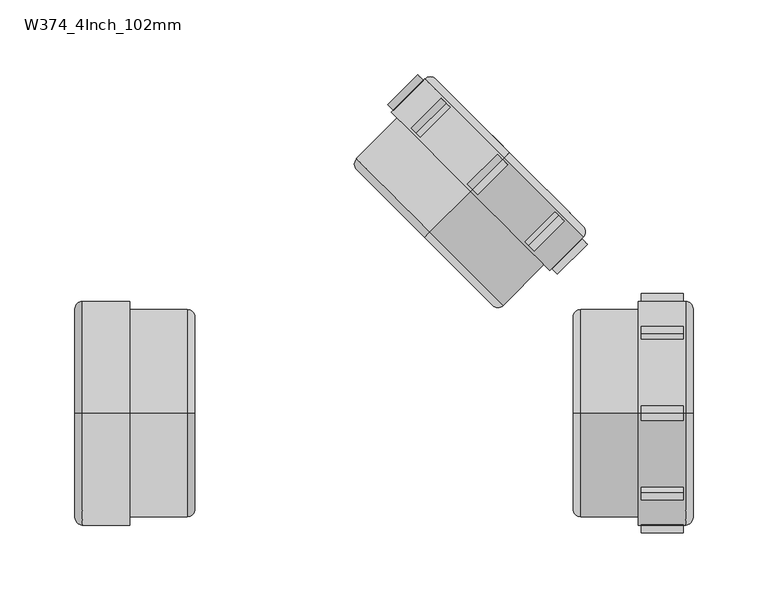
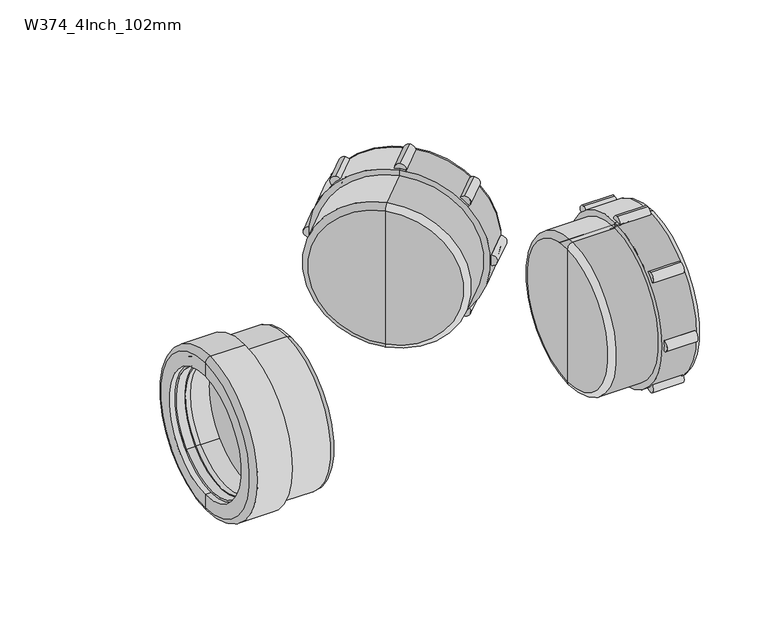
"""IFC4 building model written with IfcOpenShell, lengths in millimetres: pipe fitting geometry, Durapipe_PipeFitting_VulcatheneMechanical_SingleWye_W37 : W374_4Inch_102mm."""

from ifc_helpers import new_model, si_unit, point, frame, frame_2d, origin, place, context, project, spatial, polyline, circle_curve, ellipse_curve, trimmed, segment, composite_curve, outline, extrude, source, transform, mapped, element, save
from ifc_brep_helpers import plane_surface, cylinder_surface, revolved_surface, advanced_brep


def w374_4inch_102mm_46581d94(model_context):
    return source(origin(), model_context, "Body", "SolidModel", [
        advanced_brep(
        [(202.0884702, 137.8884702, -45.3962554), (197.8384702, 142.1384702, -39.3858477), (142.1384702, 197.8384702, 39.3858477), (137.8884702, 202.0884702, 45.3962554), (124.8735424, 184.2735424, 42.0021428), (184.2735424, 124.8735424, -42.0021428), (158.1813021, 98.7813021, -42.0021428), (98.7813021, 158.1813021, 42.0021428), (99.9313021, 157.0313021, 40.3757972), (157.0313021, 99.9313021, -40.3757972), (132.4582141, 189.5582141, 40.3757972), (189.5582141, 132.4582141, -40.3757972), (133.5082141, 188.5082141, 38.890873), (188.5082141, 133.5082141, -38.890873), (192.0401946, 136.3401946, -39.3858477), (191.6901946, 136.6901946, -38.890873), (136.6901946, 191.6901946, 38.890873), (136.3401946, 192.0401946, 39.3858477)],
        [
            (0, 1),
            (1, 2, circle_curve(frame((169.9884702, 169.9884702, 0.0), z_axis=(-0.7071067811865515, -0.7071067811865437, 0.0), x_axis=(-0.49999999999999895, 0.5000000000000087, 0.707106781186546)), 55.7)),
            (2, 3),
            (3, 0, circle_curve(frame((169.9884702, 169.9884702, 0.0), z_axis=(0.7071067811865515, 0.7071067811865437, 0.0), x_axis=(-0.49999999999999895, 0.5000000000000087, 0.707106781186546)), 64.2)),
            (2, 1, circle_curve(frame((169.9884702, 169.9884702, 0.0), z_axis=(-0.7071067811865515, -0.7071067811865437, 0.0), x_axis=(-0.49999999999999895, 0.5000000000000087, 0.707106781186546)), 55.7)),
            (0, 3, circle_curve(frame((169.9884702, 169.9884702, 0.0), z_axis=(0.7071067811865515, 0.7071067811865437, 0.0), x_axis=(-0.49999999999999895, 0.5000000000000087, 0.707106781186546)), 64.2)),
            (3, 4),
            (4, 5, circle_curve(frame((154.5735424, 154.5735424, 0.0), z_axis=(0.7071067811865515, 0.7071067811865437, 0.0), x_axis=(-0.49999999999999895, 0.5000000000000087, 0.707106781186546)), 59.4)),
            (5, 0),
            (5, 4, circle_curve(frame((154.5735424, 154.5735424, 0.0), z_axis=(0.7071067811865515, 0.7071067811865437, 0.0), x_axis=(-0.49999999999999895, 0.5000000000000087, 0.707106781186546)), 59.4)),
            (6, 5),
            (4, 7),
            (7, 6, circle_curve(frame((128.4813021, 128.4813021, 0.0), z_axis=(0.7071067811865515, 0.7071067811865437, 0.0), x_axis=(-0.49999999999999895, 0.5000000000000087, 0.707106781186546)), 59.4)),
            (6, 7, circle_curve(frame((128.4813021, 128.4813021, 0.0), z_axis=(0.7071067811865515, 0.7071067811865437, 0.0), x_axis=(-0.49999999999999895, 0.5000000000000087, 0.707106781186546)), 59.4)),
            (7, 8),
            (8, 9, circle_curve(frame((128.4813021, 128.4813021, 0.0), z_axis=(0.7071067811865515, 0.7071067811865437, 0.0), x_axis=(-0.49999999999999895, 0.5000000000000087, 0.707106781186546)), 57.1)),
            (9, 6),
            (9, 8, circle_curve(frame((128.4813021, 128.4813021, 0.0), z_axis=(0.7071067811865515, 0.7071067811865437, 0.0), x_axis=(-0.49999999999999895, 0.5000000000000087, 0.707106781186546)), 57.1)),
            (8, 10),
            (10, 11, circle_curve(frame((161.0082141, 161.0082141, 0.0), z_axis=(0.7071067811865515, 0.7071067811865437, 0.0), x_axis=(-0.49999999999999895, 0.5000000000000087, 0.707106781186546)), 57.1)),
            (11, 9),
            (11, 10, circle_curve(frame((161.0082141, 161.0082141, 0.0), z_axis=(0.7071067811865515, 0.7071067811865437, 0.0), x_axis=(-0.49999999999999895, 0.5000000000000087, 0.707106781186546)), 57.1)),
            (10, 12),
            (12, 13, circle_curve(frame((161.0082141, 161.0082141, 0.0), z_axis=(0.7071067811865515, 0.7071067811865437, 0.0), x_axis=(-0.49999999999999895, 0.5000000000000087, 0.707106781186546)), 55.0)),
            (13, 11),
            (13, 12, circle_curve(frame((161.0082141, 161.0082141, 0.0), z_axis=(0.7071067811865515, 0.7071067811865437, 0.0), x_axis=(-0.49999999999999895, 0.5000000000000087, 0.707106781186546)), 55.0)),
            (14, 15),
            (15, 16, circle_curve(frame((164.1901946, 164.1901946, 0.0), z_axis=(-0.7071067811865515, -0.7071067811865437, 0.0), x_axis=(-0.49999999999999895, 0.5000000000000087, 0.707106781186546)), 55.0)),
            (16, 17),
            (17, 14, circle_curve(frame((164.1901946, 164.1901946, 0.0), z_axis=(0.7071067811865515, 0.7071067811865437, 0.0), x_axis=(-0.49999999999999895, 0.5000000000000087, 0.707106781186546)), 55.7)),
            (16, 15, circle_curve(frame((164.1901946, 164.1901946, 0.0), z_axis=(-0.7071067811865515, -0.7071067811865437, 0.0), x_axis=(-0.49999999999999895, 0.5000000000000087, 0.707106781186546)), 55.0)),
            (14, 17, circle_curve(frame((164.1901946, 164.1901946, 0.0), z_axis=(0.7071067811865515, 0.7071067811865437, 0.0), x_axis=(-0.49999999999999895, 0.5000000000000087, 0.707106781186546)), 55.7)),
            (1, 14),
            (17, 2),
            (12, 16),
            (15, 13),
        ],
        [
            plane_surface(frame((169.9884702, 169.9884702, 0.0), z_axis=(0.7071067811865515, 0.7071067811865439, 0.0), x_axis=(-0.4999999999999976, 0.5000000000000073, 0.7071067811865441))),
            revolved_surface(polyline([(137.8884702, 202.0884702, 45.3962554), (124.8735424, 184.2735424, 42.0021428)]), (173.5240041, 173.5240041, 0.0), (-0.7071067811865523, -0.7071067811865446, 0.0)),
            cylinder_surface(frame((127.0171274, 127.0171274, 0.0), z_axis=(-0.7071067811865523, -0.7071067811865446, 0.0), x_axis=(-0.49999999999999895, 0.5000000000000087, 0.707106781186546)), 59.4),
            plane_surface(frame((128.4813021, 128.4813021, 0.0), z_axis=(-0.7071067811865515, -0.7071067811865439, 0.0), x_axis=(-0.4999999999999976, 0.5000000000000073, 0.7071067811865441))),
            revolved_surface(polyline([(99.93130209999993, 157.03130210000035, 40.37579720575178), (132.4582141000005, 189.55821410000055, 40.37579720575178)]), (126.0113846, 126.0113846, 0.0), (-0.7071067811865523, -0.7071067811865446, 0.0)),
            plane_surface(frame((161.0082141, 161.0082141, 0.0), z_axis=(-0.7071067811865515, -0.7071067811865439, 0.0), x_axis=(-0.4999999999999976, 0.5000000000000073, 0.7071067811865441))),
            plane_surface(frame((164.1901946, 164.1901946, 0.0), z_axis=(0.7071067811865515, 0.7071067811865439, 0.0), x_axis=(-0.4999999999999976, 0.5000000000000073, 0.7071067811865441))),
            revolved_surface(polyline([(136.34019459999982, 192.04019460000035, 39.385847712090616), (142.13847020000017, 197.83847020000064, 39.385847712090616)]), (173.5240041, 173.5240041, 0.0), (-0.7071067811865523, -0.7071067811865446, 0.0)),
            revolved_surface(polyline([(133.50821409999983, 188.50821410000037, 38.89087296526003), (136.69019460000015, 191.69019460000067, 38.89087296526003)]), (171.0959355, 171.0959355, 0.0), (-0.7071067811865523, -0.7071067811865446, 0.0)),
        ],
        [
            (0, [[1, 2, 3, 4]]),
            (0, [[5, -1, 6, -3]]),
            (1, [[7, 8, 9, -4]]),
            (1, [[-9, 10, -7, -6]]),
            (2, [[11, -8, 12, 13]]),
            (2, [[-10, -11, 14, -12]]),
            (3, [[15, 16, 17, -13]]),
            (3, [[-17, 18, -15, -14]]),
            (4, [[-16, 19, 20, 21]]),
            (4, [[22, -19, -18, -21]]),
            (5, [[23, 24, 25, -20]]),
            (5, [[-25, 26, -23, -22]]),
            (6, [[27, 28, 29, 30]]),
            (6, [[-29, 31, -27, 32]]),
            (7, [[33, -30, 34, -2]]),
            (7, [[-34, -32, -33, -5]]),
            (8, [[-24, 35, -28, 36]]),
            (8, [[-31, -35, -26, -36]]),
        ],
    ),
        advanced_brep(
        [(148.06816, 148.06816, -75.0), (170.3420236, 170.3420236, -75.0), (170.3420236, 170.3420236, 75.0), (148.06816, 148.06816, 75.0), (148.06816, 148.06816, -69.5), (148.06816, 148.06816, 69.5), (173.8775575, 173.8775575, -70.0), (173.8775575, 173.8775575, -57.5), (173.8775575, 173.8775575, 57.5), (173.8775575, 173.8775575, 70.0), (169.9884702, 169.9884702, -66.0), (148.06816, 148.06816, -66.0), (148.06816, 148.06816, 66.0), (169.9884702, 169.9884702, 66.0), (169.9884702, 169.9884702, -57.5), (169.9884702, 169.9884702, 57.5), (120.8445489, 120.8445489, -69.5), (120.8445489, 120.8445489, 69.5), (117.309015, 117.309015, -64.5), (117.309015, 117.309015, 64.5), (117.309015, 117.309015, 0.0), (148.06816, 148.06816, 0.0)],
        [
            (0, 1),
            (1, 2, circle_curve(frame((170.3420236, 170.3420236, 0.0), z_axis=(-0.7071067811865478, -0.7071067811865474, 0.0), x_axis=(0.0, 0.0, 1.0000000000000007)), 75.0)),
            (2, 3),
            (3, 0, circle_curve(frame((148.06816, 148.06816, 0.0), z_axis=(0.7071067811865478, 0.7071067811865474, 0.0), x_axis=(0.0, 0.0, 1.0000000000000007)), 75.0)),
            (2, 1, circle_curve(frame((170.3420236, 170.3420236, 0.0), z_axis=(-0.7071067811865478, -0.7071067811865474, 0.0), x_axis=(0.0, 0.0, 1.0000000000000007)), 75.0)),
            (0, 3, circle_curve(frame((148.06816, 148.06816, 0.0), z_axis=(0.7071067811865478, 0.7071067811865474, 0.0), x_axis=(0.0, 0.0, 1.0000000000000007)), 75.0)),
            (4, 0),
            (3, 5),
            (5, 4, circle_curve(frame((148.06816, 148.06816, 0.0), z_axis=(0.7071067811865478, 0.7071067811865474, 0.0), x_axis=(0.0, 0.0, 1.0000000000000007)), 69.5)),
            (4, 5, circle_curve(frame((148.06816, 148.06816, 0.0), z_axis=(0.7071067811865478, 0.7071067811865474, 0.0), x_axis=(0.0, 0.0, 1.0000000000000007)), 69.5)),
            (6, 7),
            (7, 8, circle_curve(frame((173.8775575, 173.8775575, 0.0), z_axis=(-0.7071067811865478, -0.7071067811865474, 0.0), x_axis=(0.0, 0.0, 1.0000000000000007)), 57.5)),
            (8, 9),
            (9, 6, circle_curve(frame((173.8775575, 173.8775575, 0.0), z_axis=(0.7071067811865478, 0.7071067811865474, 0.0), x_axis=(0.0, 0.0, 1.0000000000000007)), 70.0)),
            (8, 7, circle_curve(frame((173.8775575, 173.8775575, 0.0), z_axis=(-0.7071067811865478, -0.7071067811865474, 0.0), x_axis=(0.0, 0.0, 1.0000000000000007)), 57.5)),
            (6, 9, circle_curve(frame((173.8775575, 173.8775575, 0.0), z_axis=(0.7071067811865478, 0.7071067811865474, 0.0), x_axis=(0.0, 0.0, 1.0000000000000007)), 70.0)),
            (1, 6, circle_curve(frame((170.3420236, 170.3420236, -70.0), z_axis=(0.7071067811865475, -0.7071067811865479, 0.0), x_axis=(0.7071067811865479, 0.7071067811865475, 0.0)), 5.0)),
            (9, 2, circle_curve(frame((170.3420236, 170.3420236, 70.0), z_axis=(0.7071067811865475, -0.7071067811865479, 0.0), x_axis=(0.7071067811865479, 0.7071067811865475, 0.0)), 5.0)),
            (10, 11),
            (11, 12, circle_curve(frame((148.06816, 148.06816, 0.0), z_axis=(-0.7071067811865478, -0.7071067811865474, 0.0), x_axis=(0.0, 0.0, 1.0000000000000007)), 66.0)),
            (12, 13),
            (13, 10, circle_curve(frame((169.9884702, 169.9884702, 0.0), z_axis=(0.7071067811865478, 0.7071067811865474, 0.0), x_axis=(0.0, 0.0, 1.0000000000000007)), 66.0)),
            (12, 11, circle_curve(frame((148.06816, 148.06816, 0.0), z_axis=(-0.7071067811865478, -0.7071067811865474, 0.0), x_axis=(0.0, 0.0, 1.0000000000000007)), 66.0)),
            (10, 13, circle_curve(frame((169.9884702, 169.9884702, 0.0), z_axis=(0.7071067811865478, 0.7071067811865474, 0.0), x_axis=(0.0, 0.0, 1.0000000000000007)), 66.0)),
            (14, 10),
            (13, 15),
            (15, 14, circle_curve(frame((169.9884702, 169.9884702, 0.0), z_axis=(0.7071067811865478, 0.7071067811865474, 0.0), x_axis=(0.0, 0.0, 1.0000000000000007)), 57.5)),
            (14, 15, circle_curve(frame((169.9884702, 169.9884702, 0.0), z_axis=(0.7071067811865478, 0.7071067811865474, 0.0), x_axis=(0.0, 0.0, 1.0000000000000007)), 57.5)),
            (7, 14),
            (15, 8),
            (16, 4),
            (5, 17),
            (17, 16, circle_curve(frame((120.8445489, 120.8445489, 0.0), z_axis=(0.7071067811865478, 0.7071067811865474, 0.0), x_axis=(0.0, 0.0, 1.0000000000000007)), 69.5)),
            (16, 17, circle_curve(frame((120.8445489, 120.8445489, 0.0), z_axis=(0.7071067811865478, 0.7071067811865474, 0.0), x_axis=(0.0, 0.0, 1.0000000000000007)), 69.5)),
            (18, 16, circle_curve(frame((120.8445489, 120.8445489, -64.5), z_axis=(0.7071067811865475, -0.7071067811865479, 0.0), x_axis=(0.7071067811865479, 0.7071067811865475, 0.0)), 5.0)),
            (17, 19, circle_curve(frame((120.8445489, 120.8445489, 64.5), z_axis=(0.7071067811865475, -0.7071067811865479, 0.0), x_axis=(0.7071067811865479, 0.7071067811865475, 0.0)), 5.0)),
            (19, 18, circle_curve(frame((117.309015, 117.309015, 0.0), z_axis=(0.7071067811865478, 0.7071067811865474, 0.0), x_axis=(0.0, 0.0, 1.0000000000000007)), 64.5)),
            (18, 19, circle_curve(frame((117.309015, 117.309015, 0.0), z_axis=(0.7071067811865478, 0.7071067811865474, 0.0), x_axis=(0.0, 0.0, 1.0000000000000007)), 64.5)),
            (20, 18),
            (19, 20),
            (11, 21),
            (21, 12),
        ],
        [
            cylinder_surface(frame((1277.5311074, 1277.5311074, 0.0), z_axis=(-0.7071067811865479, -0.7071067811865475, 0.0), x_axis=(0.0, 0.0, 1.0000000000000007)), 75.0),
            plane_surface(frame((148.06816, 148.06816, 0.0), z_axis=(-0.7071067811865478, -0.7071067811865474, 0.0), x_axis=(0.0, 0.0, 1.0))),
            plane_surface(frame((173.8775575, 173.8775575, 0.0), z_axis=(0.7071067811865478, 0.7071067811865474, 0.0), x_axis=(0.0, 0.0, 1.0))),
            revolved_surface(trimmed(ellipse_curve(frame((170.3420236, 170.3420236, 70.0), z_axis=(0.7071067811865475, -0.7071067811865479, 0.0), x_axis=(0.7071067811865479, 0.7071067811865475, 0.0)), 5.0, 5.0), [point((173.8775575, 173.8775575, 70.0))], [point((170.3420236, 170.3420236, 75.0))], True, "CARTESIAN"), (1277.5311074, 1277.5311074, 0.0), (-0.7071067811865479, -0.7071067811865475, 0.0)),
            revolved_surface(polyline([(148.06815999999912, 148.0681599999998, 66.00000000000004), (169.98847019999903, 169.9884701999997, 66.00000000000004)]), (1277.5311074, 1277.5311074, 0.0), (-0.7071067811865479, -0.7071067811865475, 0.0)),
            plane_surface(frame((169.9884702, 169.9884702, 0.0), z_axis=(-0.7071067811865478, -0.7071067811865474, 0.0), x_axis=(0.0, 0.0, 1.0))),
            revolved_surface(polyline([(169.98847019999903, 169.9884701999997, 57.500000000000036), (173.87755749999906, 173.87755749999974, 57.500000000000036)]), (1277.5311074, 1277.5311074, 0.0), (-0.7071067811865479, -0.7071067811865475, 0.0)),
            cylinder_surface(frame((1277.5311074, 1277.5311074, 0.0), z_axis=(-0.7071067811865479, -0.7071067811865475, 0.0), x_axis=(0.0, 0.0, 1.0000000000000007)), 69.5),
            revolved_surface(trimmed(ellipse_curve(frame((120.8445489, 120.8445489, 64.5), z_axis=(0.7071067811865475, -0.7071067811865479, 0.0), x_axis=(0.7071067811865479, 0.7071067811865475, 0.0)), 5.0, 5.0), [point((120.8445489, 120.8445489, 69.5))], [point((117.309015, 117.309015, 64.5))], True, "CARTESIAN"), (1277.5311074, 1277.5311074, 0.0), (-0.7071067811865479, -0.7071067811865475, 0.0)),
            plane_surface(frame((117.309015, 117.309015, 0.0), z_axis=(-0.7071067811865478, -0.7071067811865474, 0.0), x_axis=(0.0, 0.0, 1.0))),
            plane_surface(frame((148.06816, 148.06816, 0.0), z_axis=(0.7071067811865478, 0.7071067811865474, 0.0), x_axis=(0.0, 0.0, 1.0))),
        ],
        [
            (0, [[1, 2, 3, 4]]),
            (0, [[-3, 5, -1, 6]]),
            (1, [[7, -4, 8, 9]]),
            (1, [[-8, -6, -7, 10]]),
            (2, [[11, 12, 13, 14]]),
            (2, [[-13, 15, -11, 16]]),
            (3, [[17, -14, 18, -2]]),
            (3, [[-18, -16, -17, -5]]),
            (4, [[19, 20, 21, 22]]),
            (4, [[-21, 23, -19, 24]]),
            (5, [[25, -22, 26, 27]]),
            (5, [[-26, -24, -25, 28]]),
            (6, [[29, -27, 30, -12]]),
            (6, [[-30, -28, -29, -15]]),
            (7, [[31, -9, 32, 33]]),
            (7, [[-32, -10, -31, 34]]),
            (8, [[35, -33, 36, 37]]),
            (8, [[-36, -34, -35, 38]]),
            (9, [[39, -37, 40]]),
            (9, [[-40, -38, -39]]),
            (10, [[41, 42, -20]]),
            (10, [[-42, -41, -23]]),
        ],
    ),
        extrude(outline(composite_curve([segment(trimmed(circle_curve(frame_2d((0.0, 5.0)), 5.0), [point((0.0, 10.0))], [point((0.0, 0.0))], False, "CARTESIAN"), True, "CONTINUOUS"), segment(trimmed(circle_curve(frame_2d((0.0, 5.0)), 5.0), [point((0.0, 0.0))], [point((0.0, 10.0))], False, "CARTESIAN"), True, "CONTINUOUS")], self_intersect=False)), frame((96.3079436, 202.3739608, 5.0), z_axis=(0.7071067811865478, 0.7071067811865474, 0.0), x_axis=(0.7071067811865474, -0.7071067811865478, 0.0)), (0.0, 0.0, 1.0), 28.2),
        extrude(outline(composite_curve([segment(trimmed(circle_curve(frame_2d((21.9669914, -48.0330086)), 5.0), [point((21.9669914, -43.0330086))], [point((21.9669914, -53.0330086))], False, "CARTESIAN"), True, "CONTINUOUS"), segment(trimmed(circle_curve(frame_2d((21.9669914, -48.0330086)), 5.0), [point((21.9669914, -53.0330086))], [point((21.9669914, -43.0330086))], False, "CARTESIAN"), True, "CONTINUOUS")], self_intersect=False)), frame((96.3079436, 202.3739608, 5.0), z_axis=(0.7071067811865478, 0.7071067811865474, 0.0), x_axis=(0.7071067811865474, -0.7071067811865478, 0.0)), (0.0, 0.0, 1.0), 28.2),
        extrude(outline(composite_curve([segment(trimmed(circle_curve(frame_2d((75.0, -70.0)), 5.0), [point((75.0, -65.0))], [point((75.0, -75.0))], False, "CARTESIAN"), True, "CONTINUOUS"), segment(trimmed(circle_curve(frame_2d((75.0, -70.0)), 5.0), [point((75.0, -75.0))], [point((75.0, -65.0))], False, "CARTESIAN"), True, "CONTINUOUS")], self_intersect=False)), frame((96.3079436, 202.3739608, 5.0), z_axis=(0.7071067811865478, 0.7071067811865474, 0.0), x_axis=(0.7071067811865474, -0.7071067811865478, 0.0)), (0.0, 0.0, 1.0), 28.2),
        extrude(outline(composite_curve([segment(trimmed(circle_curve(frame_2d((128.0330086, -48.0330086)), 5.0), [point((128.0330086, -43.0330086))], [point((128.0330086, -53.0330086))], False, "CARTESIAN"), True, "CONTINUOUS"), segment(trimmed(circle_curve(frame_2d((128.0330086, -48.0330086)), 5.0), [point((128.0330086, -53.0330086))], [point((128.0330086, -43.0330086))], False, "CARTESIAN"), True, "CONTINUOUS")], self_intersect=False)), frame((96.3079436, 202.3739608, 5.0), z_axis=(0.7071067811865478, 0.7071067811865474, 0.0), x_axis=(0.7071067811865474, -0.7071067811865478, 0.0)), (0.0, 0.0, 1.0), 28.2),
        extrude(outline(composite_curve([segment(trimmed(circle_curve(frame_2d((150.0, 5.0)), 5.0), [point((150.0, 10.0))], [point((150.0, 0.0))], False, "CARTESIAN"), True, "CONTINUOUS"), segment(trimmed(circle_curve(frame_2d((150.0, 5.0)), 5.0), [point((150.0, 0.0))], [point((150.0, 10.0))], False, "CARTESIAN"), True, "CONTINUOUS")], self_intersect=False)), frame((96.3079436, 202.3739608, 5.0), z_axis=(0.7071067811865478, 0.7071067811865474, 0.0), x_axis=(0.7071067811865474, -0.7071067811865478, 0.0)), (0.0, 0.0, 1.0), 28.2),
        extrude(outline(composite_curve([segment(trimmed(circle_curve(frame_2d((128.0330086, 58.0330086)), 5.0), [point((128.0330086, 63.0330086))], [point((128.0330086, 53.0330086))], False, "CARTESIAN"), True, "CONTINUOUS"), segment(trimmed(circle_curve(frame_2d((128.0330086, 58.0330086)), 5.0), [point((128.0330086, 53.0330086))], [point((128.0330086, 63.0330086))], False, "CARTESIAN"), True, "CONTINUOUS")], self_intersect=False)), frame((96.3079436, 202.3739608, 5.0), z_axis=(0.7071067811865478, 0.7071067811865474, 0.0), x_axis=(0.7071067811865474, -0.7071067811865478, 0.0)), (0.0, 0.0, 1.0), 28.2),
        extrude(outline(composite_curve([segment(trimmed(circle_curve(frame_2d((75.0, 80.0)), 5.0), [point((75.0, 85.0))], [point((75.0, 75.0))], False, "CARTESIAN"), True, "CONTINUOUS"), segment(trimmed(circle_curve(frame_2d((75.0, 80.0)), 5.0), [point((75.0, 75.0))], [point((75.0, 85.0))], False, "CARTESIAN"), True, "CONTINUOUS")], self_intersect=False)), frame((96.3079436, 202.3739608, 5.0), z_axis=(0.7071067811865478, 0.7071067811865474, 0.0), x_axis=(0.7071067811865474, -0.7071067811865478, 0.0)), (0.0, 0.0, 1.0), 28.2),
        extrude(outline(composite_curve([segment(trimmed(circle_curve(frame_2d((21.9669914, 58.0330086)), 5.0), [point((21.9669914, 63.0330086))], [point((21.9669914, 53.0330086))], False, "CARTESIAN"), True, "CONTINUOUS"), segment(trimmed(circle_curve(frame_2d((21.9669914, 58.0330086)), 5.0), [point((21.9669914, 53.0330086))], [point((21.9669914, 63.0330086))], False, "CARTESIAN"), True, "CONTINUOUS")], self_intersect=False)), frame((96.3079436, 202.3739608, 5.0), z_axis=(0.7071067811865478, 0.7071067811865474, 0.0), x_axis=(0.7071067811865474, -0.7071067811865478, 0.0)), (0.0, 0.0, 1.0), 28.2),
        advanced_brep(
        [(290.9, 45.3962554, 45.3962554), (290.9, 39.3858477, 39.3858477), (290.9, -39.3858477, -39.3858477), (290.9, -45.3962554, -45.3962554), (269.1, -42.0021428, -42.0021428), (269.1, 42.0021428, 42.0021428), (232.2, 42.0021428, 42.0021428), (232.2, -42.0021428, -42.0021428), (232.2, -40.3757972, -40.3757972), (232.2, 40.3757972, 40.3757972), (278.2, -40.3757972, -40.3757972), (278.2, 40.3757972, 40.3757972), (278.2, -38.890873, -38.890873), (278.2, 38.890873, 38.890873), (282.7, 39.3858477, 39.3858477), (282.7, 38.890873, 38.890873), (282.7, -38.890873, -38.890873), (282.7, -39.3858477, -39.3858477)],
        [
            (0, 1),
            (1, 2, circle_curve(frame((290.9, 0.0, 0.0), z_axis=(-1.0, 0.0, 0.0), x_axis=(0.0, -0.7071067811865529, -0.7071067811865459)), 55.7)),
            (2, 3),
            (3, 0, circle_curve(frame((290.9, 0.0, 0.0), z_axis=(1.0, 0.0, 0.0), x_axis=(0.0, -0.7071067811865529, -0.7071067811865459)), 64.2)),
            (2, 1, circle_curve(frame((290.9, 0.0, 0.0), z_axis=(-1.0, 0.0, 0.0), x_axis=(0.0, -0.7071067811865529, -0.7071067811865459)), 55.7)),
            (0, 3, circle_curve(frame((290.9, 0.0, 0.0), z_axis=(1.0, 0.0, 0.0), x_axis=(0.0, -0.7071067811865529, -0.7071067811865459)), 64.2)),
            (3, 4),
            (4, 5, circle_curve(frame((269.1, 0.0, 0.0), z_axis=(1.0, 0.0, 0.0), x_axis=(0.0, -0.7071067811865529, -0.7071067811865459)), 59.4)),
            (5, 0),
            (5, 4, circle_curve(frame((269.1, 0.0, 0.0), z_axis=(1.0, 0.0, 0.0), x_axis=(0.0, -0.7071067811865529, -0.7071067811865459)), 59.4)),
            (6, 5),
            (4, 7),
            (7, 6, circle_curve(frame((232.2, 0.0, 0.0), z_axis=(1.0, 0.0, 0.0), x_axis=(0.0, -0.7071067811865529, -0.7071067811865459)), 59.4)),
            (6, 7, circle_curve(frame((232.2, 0.0, 0.0), z_axis=(1.0, 0.0, 0.0), x_axis=(0.0, -0.7071067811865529, -0.7071067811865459)), 59.4)),
            (7, 8),
            (8, 9, circle_curve(frame((232.2, 0.0, 0.0), z_axis=(1.0, 0.0, 0.0), x_axis=(0.0, -0.7071067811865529, -0.7071067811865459)), 57.1)),
            (9, 6),
            (9, 8, circle_curve(frame((232.2, 0.0, 0.0), z_axis=(1.0, 0.0, 0.0), x_axis=(0.0, -0.7071067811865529, -0.7071067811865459)), 57.1)),
            (8, 10),
            (10, 11, circle_curve(frame((278.2, 0.0, 0.0), z_axis=(1.0, 0.0, 0.0), x_axis=(0.0, -0.7071067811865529, -0.7071067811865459)), 57.1)),
            (11, 9),
            (11, 10, circle_curve(frame((278.2, 0.0, 0.0), z_axis=(1.0, 0.0, 0.0), x_axis=(0.0, -0.7071067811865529, -0.7071067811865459)), 57.1)),
            (10, 12),
            (12, 13, circle_curve(frame((278.2, 0.0, 0.0), z_axis=(1.0, 0.0, 0.0), x_axis=(0.0, -0.7071067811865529, -0.7071067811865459)), 55.0)),
            (13, 11),
            (13, 12, circle_curve(frame((278.2, 0.0, 0.0), z_axis=(1.0, 0.0, 0.0), x_axis=(0.0, -0.7071067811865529, -0.7071067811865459)), 55.0)),
            (14, 15),
            (15, 16, circle_curve(frame((282.7, 0.0, 0.0), z_axis=(-1.0, 0.0, 0.0), x_axis=(0.0, -0.7071067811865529, -0.7071067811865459)), 55.0)),
            (16, 17),
            (17, 14, circle_curve(frame((282.7, 0.0, 0.0), z_axis=(1.0, 0.0, 0.0), x_axis=(0.0, -0.7071067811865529, -0.7071067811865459)), 55.7)),
            (16, 15, circle_curve(frame((282.7, 0.0, 0.0), z_axis=(-1.0, 0.0, 0.0), x_axis=(0.0, -0.7071067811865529, -0.7071067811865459)), 55.0)),
            (14, 17, circle_curve(frame((282.7, 0.0, 0.0), z_axis=(1.0, 0.0, 0.0), x_axis=(0.0, -0.7071067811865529, -0.7071067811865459)), 55.7)),
            (1, 14),
            (17, 2),
            (12, 16),
            (15, 13),
        ],
        [
            plane_surface(frame((290.9, 0.0, 0.0), z_axis=(1.0, 0.0, 0.0), x_axis=(0.0, -0.707106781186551, -0.707106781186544))),
            revolved_surface(polyline([(290.9, -45.3962554, -45.3962554), (269.1, -42.0021428, -42.0021428)]), (295.9, 0.0, 0.0), (-1.0000000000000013, 0.0, 0.0)),
            cylinder_surface(frame((230.1293443, 0.0, 0.0), z_axis=(-1.0000000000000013, 0.0, 0.0), x_axis=(0.0, -0.7071067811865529, -0.7071067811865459)), 59.4),
            plane_surface(frame((232.2, 0.0, 0.0), z_axis=(-1.0, 0.0, 0.0), x_axis=(0.0, -0.707106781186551, -0.707106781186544))),
            revolved_surface(polyline([(232.2, -40.37579720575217, -40.37579720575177), (278.2000000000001, -40.37579720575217, -40.37579720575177)]), (228.707009, 0.0, 0.0), (-1.0000000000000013, 0.0, 0.0)),
            plane_surface(frame((278.2, 0.0, 0.0), z_axis=(-1.0, 0.0, 0.0), x_axis=(0.0, -0.707106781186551, -0.707106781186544))),
            plane_surface(frame((282.7, 0.0, 0.0), z_axis=(1.0, 0.0, 0.0), x_axis=(0.0, -0.707106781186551, -0.707106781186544))),
            revolved_surface(polyline([(282.69999999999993, -39.385847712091, -39.38584771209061), (290.9, -39.385847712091, -39.38584771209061)]), (295.9, 0.0, 0.0), (-1.0000000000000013, 0.0, 0.0)),
            revolved_surface(polyline([(278.19999999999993, -38.89087296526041, -38.89087296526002), (282.7, -38.89087296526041, -38.89087296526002)]), (292.4661924, 0.0, 0.0), (-1.0000000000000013, 0.0, 0.0)),
        ],
        [
            (0, [[1, 2, 3, 4]]),
            (0, [[5, -1, 6, -3]]),
            (1, [[7, 8, 9, -4]]),
            (1, [[-9, 10, -7, -6]]),
            (2, [[11, -8, 12, 13]]),
            (2, [[-10, -11, 14, -12]]),
            (3, [[15, 16, 17, -13]]),
            (3, [[-17, 18, -15, -14]]),
            (4, [[-16, 19, 20, 21]]),
            (4, [[22, -19, -18, -21]]),
            (5, [[23, 24, 25, -20]]),
            (5, [[-25, 26, -23, -22]]),
            (6, [[27, 28, 29, 30]]),
            (6, [[-29, 31, -27, 32]]),
            (7, [[33, -30, 34, -2]]),
            (7, [[-34, -32, -33, -5]]),
            (8, [[-24, 35, -28, 36]]),
            (8, [[-31, -35, -26, -36]]),
        ],
    ),
        advanced_brep(
        [(259.9, 0.0, 75.0), (291.4, 0.0, 75.0), (291.4, 0.0, -75.0), (259.9, 0.0, -75.0), (259.9, 0.0, 69.5), (259.9, 0.0, -69.5), (296.4, 0.0, 70.0), (296.4, 0.0, 57.5), (296.4, 0.0, -57.5), (296.4, 0.0, -70.0), (290.9, 0.0, 66.0), (259.9, 0.0, 66.0), (259.9, 0.0, -66.0), (290.9, 0.0, -66.0), (290.9, 0.0, 57.5), (290.9, 0.0, -57.5), (221.4, 0.0, 69.5), (221.4, 0.0, -69.5), (216.4, 0.0, 64.5), (216.4, 0.0, -64.5), (216.4, 0.0, 0.0), (259.9, 0.0, 0.0)],
        [
            (0, 1),
            (1, 2, circle_curve(frame((291.4, 0.0, 0.0), z_axis=(-1.0, 0.0, 0.0), x_axis=(0.0, 0.0, -1.0000000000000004)), 75.0)),
            (2, 3),
            (3, 0, circle_curve(frame((259.9, 0.0, 0.0), z_axis=(1.0, 0.0, 0.0), x_axis=(0.0, 0.0, -1.0000000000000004)), 75.0)),
            (2, 1, circle_curve(frame((291.4, 0.0, 0.0), z_axis=(-1.0, 0.0, 0.0), x_axis=(0.0, 0.0, -1.0000000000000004)), 75.0)),
            (0, 3, circle_curve(frame((259.9, 0.0, 0.0), z_axis=(1.0, 0.0, 0.0), x_axis=(0.0, 0.0, -1.0000000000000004)), 75.0)),
            (4, 0),
            (3, 5),
            (5, 4, circle_curve(frame((259.9, 0.0, 0.0), z_axis=(1.0, 0.0, 0.0), x_axis=(0.0, 0.0, -1.0000000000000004)), 69.5)),
            (4, 5, circle_curve(frame((259.9, 0.0, 0.0), z_axis=(1.0, 0.0, 0.0), x_axis=(0.0, 0.0, -1.0000000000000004)), 69.5)),
            (6, 7),
            (7, 8, circle_curve(frame((296.4, 0.0, 0.0), z_axis=(-1.0, 0.0, 0.0), x_axis=(0.0, 0.0, -1.0000000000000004)), 57.5)),
            (8, 9),
            (9, 6, circle_curve(frame((296.4, 0.0, 0.0), z_axis=(1.0, 0.0, 0.0), x_axis=(0.0, 0.0, -1.0000000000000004)), 70.0)),
            (8, 7, circle_curve(frame((296.4, 0.0, 0.0), z_axis=(-1.0, 0.0, 0.0), x_axis=(0.0, 0.0, -1.0000000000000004)), 57.5)),
            (6, 9, circle_curve(frame((296.4, 0.0, 0.0), z_axis=(1.0, 0.0, 0.0), x_axis=(0.0, 0.0, -1.0000000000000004)), 70.0)),
            (1, 6, circle_curve(frame((291.4, 0.0, 70.0), z_axis=(0.0, 1.0000000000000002, 0.0), x_axis=(1.0000000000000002, 0.0, 0.0)), 5.0)),
            (9, 2, circle_curve(frame((291.4, 0.0, -70.0), z_axis=(0.0, 1.0000000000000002, 0.0), x_axis=(1.0000000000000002, 0.0, 0.0)), 5.0)),
            (10, 11),
            (11, 12, circle_curve(frame((259.9, 0.0, 0.0), z_axis=(-1.0, 0.0, 0.0), x_axis=(0.0, 0.0, -1.0000000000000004)), 66.0)),
            (12, 13),
            (13, 10, circle_curve(frame((290.9, 0.0, 0.0), z_axis=(1.0, 0.0, 0.0), x_axis=(0.0, 0.0, -1.0000000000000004)), 66.0)),
            (12, 11, circle_curve(frame((259.9, 0.0, 0.0), z_axis=(-1.0, 0.0, 0.0), x_axis=(0.0, 0.0, -1.0000000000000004)), 66.0)),
            (10, 13, circle_curve(frame((290.9, 0.0, 0.0), z_axis=(1.0, 0.0, 0.0), x_axis=(0.0, 0.0, -1.0000000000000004)), 66.0)),
            (14, 10),
            (13, 15),
            (15, 14, circle_curve(frame((290.9, 0.0, 0.0), z_axis=(1.0, 0.0, 0.0), x_axis=(0.0, 0.0, -1.0000000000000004)), 57.5)),
            (14, 15, circle_curve(frame((290.9, 0.0, 0.0), z_axis=(1.0, 0.0, 0.0), x_axis=(0.0, 0.0, -1.0000000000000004)), 57.5)),
            (7, 14),
            (15, 8),
            (16, 4),
            (5, 17),
            (17, 16, circle_curve(frame((221.4, 0.0, 0.0), z_axis=(1.0, 0.0, 0.0), x_axis=(0.0, 0.0, -1.0000000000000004)), 69.5)),
            (16, 17, circle_curve(frame((221.4, 0.0, 0.0), z_axis=(1.0, 0.0, 0.0), x_axis=(0.0, 0.0, -1.0000000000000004)), 69.5)),
            (18, 16, circle_curve(frame((221.4, 0.0, 64.5), z_axis=(0.0, 1.0000000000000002, 0.0), x_axis=(1.0000000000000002, 0.0, 0.0)), 5.0)),
            (17, 19, circle_curve(frame((221.4, 0.0, -64.5), z_axis=(0.0, 1.0000000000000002, 0.0), x_axis=(1.0000000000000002, 0.0, 0.0)), 5.0)),
            (19, 18, circle_curve(frame((216.4, 0.0, 0.0), z_axis=(1.0, 0.0, 0.0), x_axis=(0.0, 0.0, -1.0000000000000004)), 64.5)),
            (18, 19, circle_curve(frame((216.4, 0.0, 0.0), z_axis=(1.0, 0.0, 0.0), x_axis=(0.0, 0.0, -1.0000000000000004)), 64.5)),
            (20, 18),
            (19, 20),
            (11, 21),
            (21, 12),
        ],
        [
            cylinder_surface(frame((1857.2018184, 0.0, 0.0), z_axis=(-1.0000000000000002, 0.0, 0.0), x_axis=(0.0, 0.0, -1.0000000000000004)), 75.0),
            plane_surface(frame((259.9, 0.0, 0.0), z_axis=(-1.0, 0.0, 0.0), x_axis=(0.0, 0.0, -1.0))),
            plane_surface(frame((296.4, 0.0, 0.0), z_axis=(1.0, 0.0, 0.0), x_axis=(0.0, 0.0, -1.0))),
            revolved_surface(trimmed(ellipse_curve(frame((291.4, 0.0, -70.0), z_axis=(0.0, 1.0000000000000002, 0.0), x_axis=(1.0000000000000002, 0.0, 0.0)), 5.0, 5.0), [point((296.4, 0.0, -70.0))], [point((291.4, 0.0, -75.0))], True, "CARTESIAN"), (1857.2018184, 0.0, 0.0), (-1.0000000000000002, 0.0, 0.0)),
            revolved_surface(polyline([(259.89999999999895, 0.0, -66.00000000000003), (290.89999999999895, 0.0, -66.00000000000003)]), (1857.2018184, 0.0, 0.0), (-1.0000000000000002, 0.0, 0.0)),
            plane_surface(frame((290.9, 0.0, 0.0), z_axis=(-1.0, 0.0, 0.0), x_axis=(0.0, 0.0, -1.0))),
            revolved_surface(polyline([(290.89999999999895, 0.0, -57.50000000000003), (296.39999999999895, 0.0, -57.50000000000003)]), (1857.2018184, 0.0, 0.0), (-1.0000000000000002, 0.0, 0.0)),
            cylinder_surface(frame((1857.2018184, 0.0, 0.0), z_axis=(-1.0000000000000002, 0.0, 0.0), x_axis=(0.0, 0.0, -1.0000000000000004)), 69.5),
            revolved_surface(trimmed(ellipse_curve(frame((221.4, 0.0, -64.5), z_axis=(0.0, 1.0000000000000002, 0.0), x_axis=(1.0000000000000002, 0.0, 0.0)), 5.0, 5.0), [point((221.4, 0.0, -69.5))], [point((216.4, 0.0, -64.5))], True, "CARTESIAN"), (1857.2018184, 0.0, 0.0), (-1.0000000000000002, 0.0, 0.0)),
            plane_surface(frame((216.4, 0.0, 0.0), z_axis=(-1.0, 0.0, 0.0), x_axis=(0.0, 0.0, -1.0))),
            plane_surface(frame((259.9, 0.0, 0.0), z_axis=(1.0, 0.0, 0.0), x_axis=(0.0, 0.0, -1.0))),
        ],
        [
            (0, [[1, 2, 3, 4]]),
            (0, [[-3, 5, -1, 6]]),
            (1, [[7, -4, 8, 9]]),
            (1, [[-8, -6, -7, 10]]),
            (2, [[11, 12, 13, 14]]),
            (2, [[-13, 15, -11, 16]]),
            (3, [[17, -14, 18, -2]]),
            (3, [[-18, -16, -17, -5]]),
            (4, [[19, 20, 21, 22]]),
            (4, [[-21, 23, -19, 24]]),
            (5, [[25, -22, 26, 27]]),
            (5, [[-26, -24, -25, 28]]),
            (6, [[29, -27, 30, -12]]),
            (6, [[-30, -28, -29, -15]]),
            (7, [[31, -9, 32, 33]]),
            (7, [[-32, -10, -31, 34]]),
            (8, [[35, -33, 36, 37]]),
            (8, [[-36, -34, -35, 38]]),
            (9, [[39, -37, 40]]),
            (9, [[-40, -38, -39]]),
            (10, [[41, 42, -20]]),
            (10, [[-42, -41, -23]]),
        ],
    ),
        extrude(outline(composite_curve([segment(trimmed(circle_curve(frame_2d((-75.0, 0.0)), 5.0), [point((-75.0, 5.0))], [point((-75.0, -5.0))], False, "CARTESIAN"), True, "CONTINUOUS"), segment(trimmed(circle_curve(frame_2d((-75.0, 0.0)), 5.0), [point((-75.0, -5.0))], [point((-75.0, 5.0))], False, "CARTESIAN"), True, "CONTINUOUS")], self_intersect=False)), frame((261.7, 0.0, 0.0), z_axis=(1.0, 0.0, 0.0), x_axis=(0.0, 1.0, 0.0)), (0.0, 0.0, 1.0), 28.2),
        extrude(outline(composite_curve([segment(trimmed(circle_curve(frame_2d((-53.0330086, -53.0330086)), 5.0), [point((-53.0330086, -48.0330086))], [point((-53.0330086, -58.0330086))], False, "CARTESIAN"), True, "CONTINUOUS"), segment(trimmed(circle_curve(frame_2d((-53.0330086, -53.0330086)), 5.0), [point((-53.0330086, -58.0330086))], [point((-53.0330086, -48.0330086))], False, "CARTESIAN"), True, "CONTINUOUS")], self_intersect=False)), frame((261.7, 0.0, 0.0), z_axis=(1.0, 0.0, 0.0), x_axis=(0.0, 1.0, 0.0)), (0.0, 0.0, 1.0), 28.2),
        extrude(outline(composite_curve([segment(trimmed(circle_curve(frame_2d((0.0, -75.0)), 5.0), [point((0.0, -70.0))], [point((0.0, -80.0))], False, "CARTESIAN"), True, "CONTINUOUS"), segment(trimmed(circle_curve(frame_2d((0.0, -75.0)), 5.0), [point((0.0, -80.0))], [point((0.0, -70.0))], False, "CARTESIAN"), True, "CONTINUOUS")], self_intersect=False)), frame((261.7, 0.0, 0.0), z_axis=(1.0, 0.0, 0.0), x_axis=(0.0, 1.0, 0.0)), (0.0, 0.0, 1.0), 28.2),
        extrude(outline(composite_curve([segment(trimmed(circle_curve(frame_2d((53.0330086, -53.0330086)), 5.0), [point((53.0330086, -48.0330086))], [point((53.0330086, -58.0330086))], False, "CARTESIAN"), True, "CONTINUOUS"), segment(trimmed(circle_curve(frame_2d((53.0330086, -53.0330086)), 5.0), [point((53.0330086, -58.0330086))], [point((53.0330086, -48.0330086))], False, "CARTESIAN"), True, "CONTINUOUS")], self_intersect=False)), frame((261.7, 0.0, 0.0), z_axis=(1.0, 0.0, 0.0), x_axis=(0.0, 1.0, 0.0)), (0.0, 0.0, 1.0), 28.2),
        extrude(outline(composite_curve([segment(trimmed(circle_curve(frame_2d((75.0, 0.0)), 5.0), [point((75.0, 5.0))], [point((75.0, -5.0))], False, "CARTESIAN"), True, "CONTINUOUS"), segment(trimmed(circle_curve(frame_2d((75.0, 0.0)), 5.0), [point((75.0, -5.0))], [point((75.0, 5.0))], False, "CARTESIAN"), True, "CONTINUOUS")], self_intersect=False)), frame((261.7, 0.0, 0.0), z_axis=(1.0, 0.0, 0.0), x_axis=(0.0, 1.0, 0.0)), (0.0, 0.0, 1.0), 28.2),
        extrude(outline(composite_curve([segment(trimmed(circle_curve(frame_2d((53.0330086, 53.0330086)), 5.0), [point((53.0330086, 58.0330086))], [point((53.0330086, 48.0330086))], False, "CARTESIAN"), True, "CONTINUOUS"), segment(trimmed(circle_curve(frame_2d((53.0330086, 53.0330086)), 5.0), [point((53.0330086, 48.0330086))], [point((53.0330086, 58.0330086))], False, "CARTESIAN"), True, "CONTINUOUS")], self_intersect=False)), frame((261.7, 0.0, 0.0), z_axis=(1.0, 0.0, 0.0), x_axis=(0.0, 1.0, 0.0)), (0.0, 0.0, 1.0), 28.2),
        extrude(outline(composite_curve([segment(trimmed(circle_curve(frame_2d((0.0, 75.0)), 5.0), [point((0.0, 80.0))], [point((0.0, 70.0))], False, "CARTESIAN"), True, "CONTINUOUS"), segment(trimmed(circle_curve(frame_2d((0.0, 75.0)), 5.0), [point((0.0, 70.0))], [point((0.0, 80.0))], False, "CARTESIAN"), True, "CONTINUOUS")], self_intersect=False)), frame((261.7, 0.0, 0.0), z_axis=(1.0, 0.0, 0.0), x_axis=(0.0, 1.0, 0.0)), (0.0, 0.0, 1.0), 28.2),
        extrude(outline(composite_curve([segment(trimmed(circle_curve(frame_2d((-53.0330086, 53.0330086)), 5.0), [point((-53.0330086, 58.0330086))], [point((-53.0330086, 48.0330086))], False, "CARTESIAN"), True, "CONTINUOUS"), segment(trimmed(circle_curve(frame_2d((-53.0330086, 53.0330086)), 5.0), [point((-53.0330086, 48.0330086))], [point((-53.0330086, 58.0330086))], False, "CARTESIAN"), True, "CONTINUOUS")], self_intersect=False)), frame((261.7, 0.0, 0.0), z_axis=(1.0, 0.0, 0.0), x_axis=(0.0, 1.0, 0.0)), (0.0, 0.0, 1.0), 28.2),
        advanced_brep(
        [(-110.5, 45.3962554, -45.3962554), (-110.5, 39.3858477, -39.3858477), (-110.5, -39.3858477, 39.3858477), (-110.5, -45.3962554, 45.3962554), (-88.7, -42.0021428, 42.0021428), (-88.7, 42.0021428, -42.0021428), (-51.8, 42.0021428, -42.0021428), (-51.8, -42.0021428, 42.0021428), (-51.8, -40.3757972, 40.3757972), (-51.8, 40.3757972, -40.3757972), (-97.8, -40.3757972, 40.3757972), (-97.8, 40.3757972, -40.3757972), (-97.8, -38.890873, 38.890873), (-97.8, 38.890873, -38.890873), (-102.3, 39.3858477, -39.3858477), (-102.3, 38.890873, -38.890873), (-102.3, -38.890873, 38.890873), (-102.3, -39.3858477, 39.3858477)],
        [
            (0, 1),
            (1, 2, circle_curve(frame((-110.5, 0.0, 0.0), z_axis=(1.0, 0.0, 0.0), x_axis=(0.0, -0.7071067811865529, 0.7071067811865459)), 55.7)),
            (2, 3),
            (3, 0, circle_curve(frame((-110.5, 0.0, 0.0), z_axis=(-1.0, 0.0, 0.0), x_axis=(0.0, -0.7071067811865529, 0.7071067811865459)), 64.2)),
            (2, 1, circle_curve(frame((-110.5, 0.0, 0.0), z_axis=(1.0, 0.0, 0.0), x_axis=(0.0, -0.7071067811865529, 0.7071067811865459)), 55.7)),
            (0, 3, circle_curve(frame((-110.5, 0.0, 0.0), z_axis=(-1.0, 0.0, 0.0), x_axis=(0.0, -0.7071067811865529, 0.7071067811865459)), 64.2)),
            (3, 4),
            (4, 5, circle_curve(frame((-88.7, 0.0, 0.0), z_axis=(-1.0, 0.0, 0.0), x_axis=(0.0, -0.7071067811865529, 0.7071067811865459)), 59.4)),
            (5, 0),
            (5, 4, circle_curve(frame((-88.7, 0.0, 0.0), z_axis=(-1.0, 0.0, 0.0), x_axis=(0.0, -0.7071067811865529, 0.7071067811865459)), 59.4)),
            (6, 5),
            (4, 7),
            (7, 6, circle_curve(frame((-51.8, 0.0, 0.0), z_axis=(-1.0, 0.0, 0.0), x_axis=(0.0, -0.7071067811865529, 0.7071067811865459)), 59.4)),
            (6, 7, circle_curve(frame((-51.8, 0.0, 0.0), z_axis=(-1.0, 0.0, 0.0), x_axis=(0.0, -0.7071067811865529, 0.7071067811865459)), 59.4)),
            (7, 8),
            (8, 9, circle_curve(frame((-51.8, 0.0, 0.0), z_axis=(-1.0, 0.0, 0.0), x_axis=(0.0, -0.7071067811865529, 0.7071067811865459)), 57.1)),
            (9, 6),
            (9, 8, circle_curve(frame((-51.8, 0.0, 0.0), z_axis=(-1.0, 0.0, 0.0), x_axis=(0.0, -0.7071067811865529, 0.7071067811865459)), 57.1)),
            (8, 10),
            (10, 11, circle_curve(frame((-97.8, 0.0, 0.0), z_axis=(-1.0, 0.0, 0.0), x_axis=(0.0, -0.7071067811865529, 0.7071067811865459)), 57.1)),
            (11, 9),
            (11, 10, circle_curve(frame((-97.8, 0.0, 0.0), z_axis=(-1.0, 0.0, 0.0), x_axis=(0.0, -0.7071067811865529, 0.7071067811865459)), 57.1)),
            (10, 12),
            (12, 13, circle_curve(frame((-97.8, 0.0, 0.0), z_axis=(-1.0, 0.0, 0.0), x_axis=(0.0, -0.7071067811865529, 0.7071067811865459)), 55.0)),
            (13, 11),
            (13, 12, circle_curve(frame((-97.8, 0.0, 0.0), z_axis=(-1.0, 0.0, 0.0), x_axis=(0.0, -0.7071067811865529, 0.7071067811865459)), 55.0)),
            (14, 15),
            (15, 16, circle_curve(frame((-102.3, 0.0, 0.0), z_axis=(1.0, 0.0, 0.0), x_axis=(0.0, -0.7071067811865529, 0.7071067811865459)), 55.0)),
            (16, 17),
            (17, 14, circle_curve(frame((-102.3, 0.0, 0.0), z_axis=(-1.0, 0.0, 0.0), x_axis=(0.0, -0.7071067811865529, 0.7071067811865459)), 55.7)),
            (16, 15, circle_curve(frame((-102.3, 0.0, 0.0), z_axis=(1.0, 0.0, 0.0), x_axis=(0.0, -0.7071067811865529, 0.7071067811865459)), 55.0)),
            (14, 17, circle_curve(frame((-102.3, 0.0, 0.0), z_axis=(-1.0, 0.0, 0.0), x_axis=(0.0, -0.7071067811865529, 0.7071067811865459)), 55.7)),
            (1, 14),
            (17, 2),
            (12, 16),
            (15, 13),
        ],
        [
            plane_surface(frame((-110.5, 0.0, 0.0), z_axis=(-1.0, 0.0, 0.0), x_axis=(0.0, -0.707106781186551, 0.707106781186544))),
            revolved_surface(polyline([(-110.5, -45.3962554, 45.3962554), (-88.7, -42.0021428, 42.0021428)]), (-115.5, 0.0, 0.0), (1.0000000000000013, 0.0, 0.0)),
            cylinder_surface(frame((-49.7293443, 0.0, 0.0), z_axis=(1.0000000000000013, 0.0, 0.0), x_axis=(0.0, -0.7071067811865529, 0.7071067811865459)), 59.4),
            plane_surface(frame((-51.8, 0.0, 0.0), z_axis=(1.0, 0.0, 0.0), x_axis=(0.0, -0.707106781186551, 0.707106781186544))),
            revolved_surface(polyline([(-51.800000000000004, -40.37579720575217, 40.37579720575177), (-97.80000000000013, -40.37579720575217, 40.37579720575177)]), (-48.307009, 0.0, 0.0), (1.0000000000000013, 0.0, 0.0)),
            plane_surface(frame((-97.8, 0.0, 0.0), z_axis=(1.0, 0.0, 0.0), x_axis=(0.0, -0.707106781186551, 0.707106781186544))),
            plane_surface(frame((-102.3, 0.0, 0.0), z_axis=(-1.0, 0.0, 0.0), x_axis=(0.0, -0.707106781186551, 0.707106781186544))),
            revolved_surface(polyline([(-102.29999999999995, -39.385847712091, 39.38584771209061), (-110.49999999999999, -39.385847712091, 39.38584771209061)]), (-115.5, 0.0, 0.0), (1.0000000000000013, 0.0, 0.0)),
            revolved_surface(polyline([(-97.79999999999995, -38.89087296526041, 38.89087296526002), (-102.29999999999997, -38.89087296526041, 38.89087296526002)]), (-112.0661924, 0.0, 0.0), (1.0000000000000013, 0.0, 0.0)),
        ],
        [
            (0, [[1, 2, 3, 4]]),
            (0, [[5, -1, 6, -3]]),
            (1, [[7, 8, 9, -4]]),
            (1, [[-9, 10, -7, -6]]),
            (2, [[11, -8, 12, 13]]),
            (2, [[-10, -11, 14, -12]]),
            (3, [[15, 16, 17, -13]]),
            (3, [[-17, 18, -15, -14]]),
            (4, [[-16, 19, 20, 21]]),
            (4, [[22, -19, -18, -21]]),
            (5, [[23, 24, 25, -20]]),
            (5, [[-25, 26, -23, -22]]),
            (6, [[27, 28, 29, 30]]),
            (6, [[-29, 31, -27, 32]]),
            (7, [[33, -30, 34, -2]]),
            (7, [[-34, -32, -33, -5]]),
            (8, [[-24, 35, -28, 36]]),
            (8, [[-31, -35, -26, -36]]),
        ],
    ),
        advanced_brep(
        [(-79.5, 0.0, -75.0), (-111.0, 0.0, -75.0), (-111.0, 0.0, 75.0), (-79.5, 0.0, 75.0), (-79.5, 0.0, -69.5), (-79.5, 0.0, 69.5), (-116.0, 0.0, -70.0), (-116.0, 0.0, -57.5), (-116.0, 0.0, 57.5), (-116.0, 0.0, 70.0), (-110.5, 0.0, -66.0), (-79.5, 0.0, -66.0), (-79.5, 0.0, 66.0), (-110.5, 0.0, 66.0), (-110.5, 0.0, -57.5), (-110.5, 0.0, 57.5), (-41.0, 0.0, -69.5), (-41.0, 0.0, 69.5), (-36.0, 0.0, -64.5), (-36.0, 0.0, 64.5), (-36.0, 0.0, 0.0), (-79.5, 0.0, 0.0)],
        [
            (0, 1),
            (1, 2, circle_curve(frame((-111.0, 0.0, 0.0), z_axis=(1.0, 0.0, 0.0), x_axis=(0.0, 0.0, 1.0000000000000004)), 75.0)),
            (2, 3),
            (3, 0, circle_curve(frame((-79.5, 0.0, 0.0), z_axis=(-1.0, 0.0, 0.0), x_axis=(0.0, 0.0, 1.0000000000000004)), 75.0)),
            (2, 1, circle_curve(frame((-111.0, 0.0, 0.0), z_axis=(1.0, 0.0, 0.0), x_axis=(0.0, 0.0, 1.0000000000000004)), 75.0)),
            (0, 3, circle_curve(frame((-79.5, 0.0, 0.0), z_axis=(-1.0, 0.0, 0.0), x_axis=(0.0, 0.0, 1.0000000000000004)), 75.0)),
            (4, 0),
            (3, 5),
            (5, 4, circle_curve(frame((-79.5, 0.0, 0.0), z_axis=(-1.0, 0.0, 0.0), x_axis=(0.0, 0.0, 1.0000000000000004)), 69.5)),
            (4, 5, circle_curve(frame((-79.5, 0.0, 0.0), z_axis=(-1.0, 0.0, 0.0), x_axis=(0.0, 0.0, 1.0000000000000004)), 69.5)),
            (6, 7),
            (7, 8, circle_curve(frame((-116.0, 0.0, 0.0), z_axis=(1.0, 0.0, 0.0), x_axis=(0.0, 0.0, 1.0000000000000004)), 57.5)),
            (8, 9),
            (9, 6, circle_curve(frame((-116.0, 0.0, 0.0), z_axis=(-1.0, 0.0, 0.0), x_axis=(0.0, 0.0, 1.0000000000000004)), 70.0)),
            (8, 7, circle_curve(frame((-116.0, 0.0, 0.0), z_axis=(1.0, 0.0, 0.0), x_axis=(0.0, 0.0, 1.0000000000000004)), 57.5)),
            (6, 9, circle_curve(frame((-116.0, 0.0, 0.0), z_axis=(-1.0, 0.0, 0.0), x_axis=(0.0, 0.0, 1.0000000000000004)), 70.0)),
            (1, 6, circle_curve(frame((-111.0, 0.0, -70.0), z_axis=(0.0, 1.0000000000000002, 0.0), x_axis=(-1.0000000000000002, 0.0, 0.0)), 5.0)),
            (9, 2, circle_curve(frame((-111.0, 0.0, 70.0), z_axis=(0.0, 1.0000000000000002, 0.0), x_axis=(-1.0000000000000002, 0.0, 0.0)), 5.0)),
            (10, 11),
            (11, 12, circle_curve(frame((-79.5, 0.0, 0.0), z_axis=(1.0, 0.0, 0.0), x_axis=(0.0, 0.0, 1.0000000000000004)), 66.0)),
            (12, 13),
            (13, 10, circle_curve(frame((-110.5, 0.0, 0.0), z_axis=(-1.0, 0.0, 0.0), x_axis=(0.0, 0.0, 1.0000000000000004)), 66.0)),
            (12, 11, circle_curve(frame((-79.5, 0.0, 0.0), z_axis=(1.0, 0.0, 0.0), x_axis=(0.0, 0.0, 1.0000000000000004)), 66.0)),
            (10, 13, circle_curve(frame((-110.5, 0.0, 0.0), z_axis=(-1.0, 0.0, 0.0), x_axis=(0.0, 0.0, 1.0000000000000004)), 66.0)),
            (14, 10),
            (13, 15),
            (15, 14, circle_curve(frame((-110.5, 0.0, 0.0), z_axis=(-1.0, 0.0, 0.0), x_axis=(0.0, 0.0, 1.0000000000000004)), 57.5)),
            (14, 15, circle_curve(frame((-110.5, 0.0, 0.0), z_axis=(-1.0, 0.0, 0.0), x_axis=(0.0, 0.0, 1.0000000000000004)), 57.5)),
            (7, 14),
            (15, 8),
            (16, 4),
            (5, 17),
            (17, 16, circle_curve(frame((-41.0, 0.0, 0.0), z_axis=(-1.0, 0.0, 0.0), x_axis=(0.0, 0.0, 1.0000000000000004)), 69.5)),
            (16, 17, circle_curve(frame((-41.0, 0.0, 0.0), z_axis=(-1.0, 0.0, 0.0), x_axis=(0.0, 0.0, 1.0000000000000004)), 69.5)),
            (18, 16, circle_curve(frame((-41.0, 0.0, -64.5), z_axis=(0.0, 1.0000000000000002, 0.0), x_axis=(-1.0000000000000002, 0.0, 0.0)), 5.0)),
            (17, 19, circle_curve(frame((-41.0, 0.0, 64.5), z_axis=(0.0, 1.0000000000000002, 0.0), x_axis=(-1.0000000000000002, 0.0, 0.0)), 5.0)),
            (19, 18, circle_curve(frame((-36.0, 0.0, 0.0), z_axis=(-1.0, 0.0, 0.0), x_axis=(0.0, 0.0, 1.0000000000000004)), 64.5)),
            (18, 19, circle_curve(frame((-36.0, 0.0, 0.0), z_axis=(-1.0, 0.0, 0.0), x_axis=(0.0, 0.0, 1.0000000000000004)), 64.5)),
            (20, 18),
            (19, 20),
            (11, 21),
            (21, 12),
        ],
        [
            cylinder_surface(frame((-1676.8018184, 0.0, 0.0), z_axis=(1.0000000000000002, 0.0, 0.0), x_axis=(0.0, 0.0, 1.0000000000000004)), 75.0),
            plane_surface(frame((-79.5, 0.0, 0.0), z_axis=(1.0, 0.0, 0.0), x_axis=(0.0, 0.0, 1.0))),
            plane_surface(frame((-116.0, 0.0, 0.0), z_axis=(-1.0, 0.0, 0.0), x_axis=(0.0, 0.0, 1.0))),
            revolved_surface(trimmed(ellipse_curve(frame((-111.0, 0.0, 70.0), z_axis=(0.0, 1.0000000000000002, 0.0), x_axis=(-1.0000000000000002, 0.0, 0.0)), 5.0, 5.0), [point((-116.0, 0.0, 70.0))], [point((-111.0, 0.0, 75.0))], True, "CARTESIAN"), (-1676.8018184, 0.0, 0.0), (1.0000000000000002, 0.0, 0.0)),
            revolved_surface(polyline([(-79.49999999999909, 0.0, 66.00000000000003), (-110.49999999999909, 0.0, 66.00000000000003)]), (-1676.8018184, 0.0, 0.0), (1.0000000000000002, 0.0, 0.0)),
            plane_surface(frame((-110.5, 0.0, 0.0), z_axis=(1.0, 0.0, 0.0), x_axis=(0.0, 0.0, 1.0))),
            revolved_surface(polyline([(-110.49999999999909, 0.0, 57.50000000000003), (-115.99999999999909, 0.0, 57.50000000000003)]), (-1676.8018184, 0.0, 0.0), (1.0000000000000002, 0.0, 0.0)),
            cylinder_surface(frame((-1676.8018184, 0.0, 0.0), z_axis=(1.0000000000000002, 0.0, 0.0), x_axis=(0.0, 0.0, 1.0000000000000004)), 69.5),
            revolved_surface(trimmed(ellipse_curve(frame((-41.0, 0.0, 64.5), z_axis=(0.0, 1.0000000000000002, 0.0), x_axis=(-1.0000000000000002, 0.0, 0.0)), 5.0, 5.0), [point((-41.0, 0.0, 69.5))], [point((-36.0, 0.0, 64.5))], True, "CARTESIAN"), (-1676.8018184, 0.0, 0.0), (1.0000000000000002, 0.0, 0.0)),
            plane_surface(frame((-36.0, 0.0, 0.0), z_axis=(1.0, 0.0, 0.0), x_axis=(0.0, 0.0, 1.0))),
            plane_surface(frame((-79.5, 0.0, 0.0), z_axis=(-1.0, 0.0, 0.0), x_axis=(0.0, 0.0, 1.0))),
        ],
        [
            (0, [[1, 2, 3, 4]]),
            (0, [[-3, 5, -1, 6]]),
            (1, [[7, -4, 8, 9]]),
            (1, [[-8, -6, -7, 10]]),
            (2, [[11, 12, 13, 14]]),
            (2, [[-13, 15, -11, 16]]),
            (3, [[17, -14, 18, -2]]),
            (3, [[-18, -16, -17, -5]]),
            (4, [[19, 20, 21, 22]]),
            (4, [[-21, 23, -19, 24]]),
            (5, [[25, -22, 26, 27]]),
            (5, [[-26, -24, -25, 28]]),
            (6, [[29, -27, 30, -12]]),
            (6, [[-30, -28, -29, -15]]),
            (7, [[31, -9, 32, 33]]),
            (7, [[-32, -10, -31, 34]]),
            (8, [[35, -33, 36, 37]]),
            (8, [[-36, -34, -35, 38]]),
            (9, [[39, -37, 40]]),
            (9, [[-40, -38, -39]]),
            (10, [[41, 42, -20]]),
            (10, [[-42, -41, -23]]),
        ],
    ),
    ])


if __name__ == "__main__":
    model = new_model("IFC4")
    model_context = context("Model", 3, world=origin())
    ifc_project = project(units=[si_unit("LENGTHUNIT", "METRE", prefix="MILLI")], contexts=[model_context])
    site = spatial("IfcSite", under=ifc_project)
    building = spatial("IfcBuilding", under=site)
    placement = place(None, origin())
    w374_4inch_102mm_shape = w374_4inch_102mm_46581d94(model_context)
    element("IfcPipeFitting", 1, ObjectType="Durapipe_PipeFitting_VulcatheneMechanical_SingleWye_W37 : W374_4Inch_102mm", at=placement, inside=building, context=model_context, shape_type="MappedRepresentation", body=[
        mapped(w374_4inch_102mm_shape, transform((0.0, 0.0, 0.0), x_axis=(1.0, 0.0, 0.0), y_axis=(0.0, 1.0, 0.0), z_axis=(0.0, 0.0, 1.0))),
    ])
    save(model, "model.ifc")
